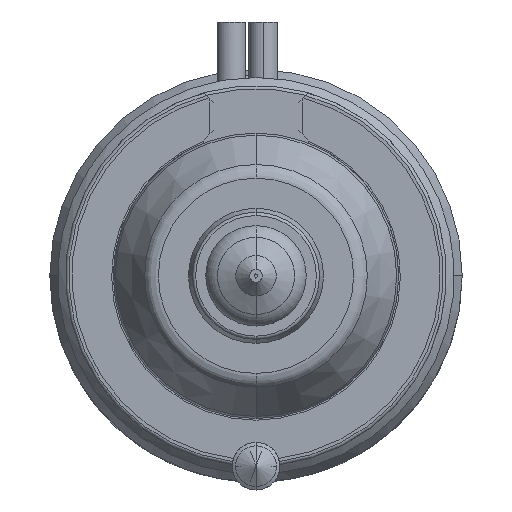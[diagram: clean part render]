
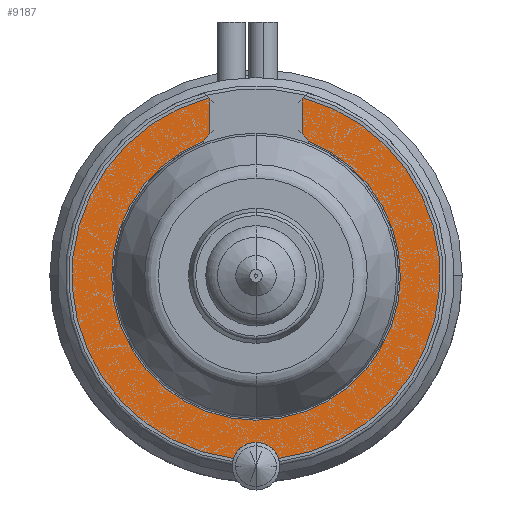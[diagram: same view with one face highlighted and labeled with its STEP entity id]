
A CAD part, front view. The second image highlights one B-rep face of the part: STEP entity #9187.
In plain terms, the highlighted planar face has unit normal (0, -1, 0).
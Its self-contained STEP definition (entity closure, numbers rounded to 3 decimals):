
#594=DIRECTION('',(0.707,0.,-0.707));
#595=VECTOR('',#594,0.092);
#596=CARTESIAN_POINT('',(-2.965,-22.,11.215));
#597=LINE('',#596,#595);
#1553=CARTESIAN_POINT('',(0.,-22.,6.2));
#1554=DIRECTION('',(0.,1.,0.));
#1555=DIRECTION('',(0.725,0.,0.689));
#1556=AXIS2_PLACEMENT_3D('',#1553,#1554,#1555);
#1568=CARTESIAN_POINT('',(0.,-22.,-12.));
#1569=DIRECTION('',(0.,1.,0.));
#1570=DIRECTION('',(-0.946,0.,0.325));
#1571=AXIS2_PLACEMENT_3D('',#1568,#1569,#1570);
#1587=CARTESIAN_POINT('',(0.,-22.,0.));
#1588=DIRECTION('',(0.,1.,0.));
#1589=DIRECTION('',(-0.122,0.,-0.992));
#1590=AXIS2_PLACEMENT_3D('',#1587,#1588,#1589);
#1599=CARTESIAN_POINT('',(0.,-22.,0.));
#1600=DIRECTION('',(0.,1.,0.));
#1601=DIRECTION('',(0.256,0.,0.967));
#1602=AXIS2_PLACEMENT_3D('',#1599,#1600,#1601);
#1615=DIRECTION('',(-0.707,0.,-0.707));
#1616=VECTOR('',#1615,0.092);
#1617=CARTESIAN_POINT('',(2.965,-22.,11.215));
#1618=LINE('',#1617,#1616);
#1623=DIRECTION('',(0.,0.,-1.));
#1624=VECTOR('',#1623,2.195);
#1625=CARTESIAN_POINT('',(2.9,-22.,11.15));
#1626=LINE('',#1625,#1624);
#1654=DIRECTION('',(0.,0.,1.));
#1655=VECTOR('',#1654,2.195);
#1656=CARTESIAN_POINT('',(-2.9,-22.,8.955));
#1657=LINE('',#1656,#1655);
#1689=CARTESIAN_POINT('',(0.,-22.,6.2));
#1690=DIRECTION('',(0.,1.,0.));
#1691=DIRECTION('',(-0.82,0.,0.572));
#1692=AXIS2_PLACEMENT_3D('',#1689,#1690,#1691);
#1704=CARTESIAN_POINT('',(0.,-22.,0.));
#1705=DIRECTION('',(0.,-1.,0.));
#1706=DIRECTION('',(-0.361,0.,0.933));
#1707=AXIS2_PLACEMENT_3D('',#1704,#1705,#1706);
#7373=CARTESIAN_POINT('',(2.965,-22.,11.215));
#7374=CARTESIAN_POINT('',(2.9,-22.,11.15));
#7375=VERTEX_POINT('',#7373);
#7376=VERTEX_POINT('',#7374);
#7381=CARTESIAN_POINT('',(-2.965,-22.,11.215));
#7382=CARTESIAN_POINT('',(-2.9,-22.,11.15));
#7383=VERTEX_POINT('',#7381);
#7384=VERTEX_POINT('',#7382);
#7419=CARTESIAN_POINT('',(2.9,-22.,8.955));
#7420=CARTESIAN_POINT('',(3.281,-22.,8.488));
#7421=VERTEX_POINT('',#7419);
#7422=VERTEX_POINT('',#7420);
#7423=CARTESIAN_POINT('',(-3.281,-22.,8.488));
#7424=CARTESIAN_POINT('',(-2.9,-22.,8.955));
#7425=VERTEX_POINT('',#7423);
#7426=VERTEX_POINT('',#7424);
#7568=CARTESIAN_POINT('',(-1.419,-22.,-11.513));
#7569=CARTESIAN_POINT('',(1.419,-22.,-11.513));
#7570=VERTEX_POINT('',#7568);
#7571=VERTEX_POINT('',#7569);
#9163=CARTESIAN_POINT('',(0.,-22.,0.));
#9164=DIRECTION('',(0.,-1.,0.));
#9165=DIRECTION('',(-1.,0.,0.));
#9166=AXIS2_PLACEMENT_3D('',#9163,#9164,#9165);
#9167=PLANE('',#9166);
#9168=ORIENTED_EDGE('',*,*,#8650,.F.);
#9170=ORIENTED_EDGE('',*,*,#9169,.T.);
#9171=ORIENTED_EDGE('',*,*,#8770,.T.);
#9173=ORIENTED_EDGE('',*,*,#9172,.F.);
#9175=ORIENTED_EDGE('',*,*,#9174,.F.);
#9177=ORIENTED_EDGE('',*,*,#9176,.T.);
#9178=ORIENTED_EDGE('',*,*,#9142,.F.);
#9180=ORIENTED_EDGE('',*,*,#9179,.F.);
#9182=ORIENTED_EDGE('',*,*,#9181,.F.);
#9184=ORIENTED_EDGE('',*,*,#9183,.T.);
#9185=EDGE_LOOP('',(#9168,#9170,#9171,#9173,#9175,#9177,#9178,#9180,#9182,
#9184));
#9186=FACE_OUTER_BOUND('',#9185,.F.);
#9187=ADVANCED_FACE('',(#9186),#9167,.T.);
#1557=CIRCLE('',#1556,4.);
#1572=CIRCLE('',#1571,1.5);
#1591=CIRCLE('',#1590,11.6);
#1603=CIRCLE('',#1602,11.6);
#1693=CIRCLE('',#1692,4.);
#1708=CIRCLE('',#1707,9.1);
#8650=EDGE_CURVE('',#7570,#7571,#1572,.T.);
#8770=EDGE_CURVE('',#7383,#7384,#597,.T.);
#9142=EDGE_CURVE('',#7421,#7422,#1557,.T.);
#9169=EDGE_CURVE('',#7570,#7383,#1591,.T.);
#9172=EDGE_CURVE('',#7426,#7384,#1657,.T.);
#9174=EDGE_CURVE('',#7425,#7426,#1693,.T.);
#9176=EDGE_CURVE('',#7425,#7422,#1708,.T.);
#9179=EDGE_CURVE('',#7376,#7421,#1626,.T.);
#9181=EDGE_CURVE('',#7375,#7376,#1618,.T.);
#9183=EDGE_CURVE('',#7375,#7571,#1603,.T.);
